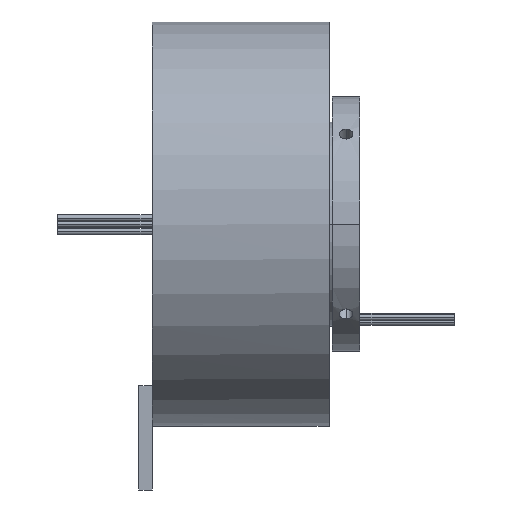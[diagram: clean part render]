
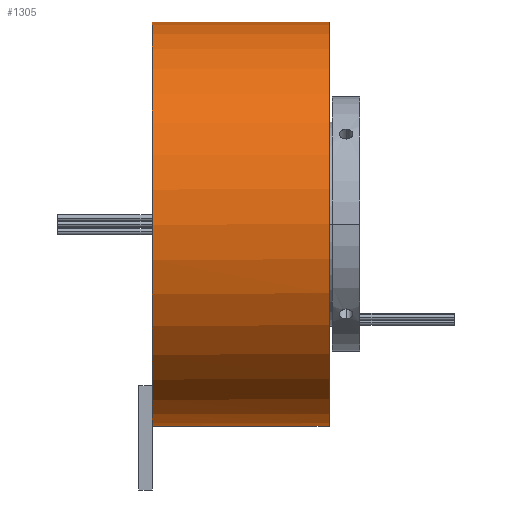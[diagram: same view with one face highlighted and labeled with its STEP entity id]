
A CAD part, left-side view. The second image highlights one B-rep face of the part: STEP entity #1305.
In plain terms, the highlighted cylindrical face has radius 59.5 mm (diameter 119 mm), a partial arc.
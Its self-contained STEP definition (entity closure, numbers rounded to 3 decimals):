
#92=CYLINDRICAL_SURFACE('',#7792,59.5);
#365=CIRCLE('',#7708,59.5);
#411=CIRCLE('',#7783,59.5);
#417=CIRCLE('',#7791,59.5);
#906=LINE('',#22940,#1719);
#907=LINE('',#22944,#1720);
#1305=ADVANCED_FACE('',(#2117),#92,.T.);
#1719=VECTOR('',#8749,1.);
#1720=VECTOR('',#8752,1.);
#2117=FACE_OUTER_BOUND('',#2568,.T.);
#2568=EDGE_LOOP('',(#4201,#4202,#4203,#4204,#4205));
#4201=ORIENTED_EDGE('',*,*,#6393,.F.);
#4202=ORIENTED_EDGE('',*,*,#6513,.T.);
#4203=ORIENTED_EDGE('',*,*,#6391,.T.);
#4204=ORIENTED_EDGE('',*,*,#6423,.F.);
#4205=ORIENTED_EDGE('',*,*,#6503,.F.);
#5418=VERTEX_POINT('',#22938);
#5420=VERTEX_POINT('',#22941);
#5421=VERTEX_POINT('',#22943);
#5422=VERTEX_POINT('',#22945);
#5449=VERTEX_POINT('',#23247);
#6391=EDGE_CURVE('',#5420,#5418,#906,.T.);
#6393=EDGE_CURVE('',#5421,#5422,#907,.T.);
#6423=EDGE_CURVE('',#5449,#5418,#365,.T.);
#6503=EDGE_CURVE('',#5422,#5449,#411,.T.);
#6513=EDGE_CURVE('',#5421,#5420,#417,.T.);
#7708=AXIS2_PLACEMENT_3D('',#23246,#8799,#8800);
#7783=AXIS2_PLACEMENT_3D('',#23414,#8983,#8984);
#7791=AXIS2_PLACEMENT_3D('',#23432,#9003,#9004);
#7792=AXIS2_PLACEMENT_3D('',#23433,#9005,#9006);
#8749=DIRECTION('',(0.,1.,0.));
#8752=DIRECTION('',(0.,1.,0.));
#8799=DIRECTION('',(0.,1.,0.));
#8800=DIRECTION('',(-0.168,0.,-0.986));
#8983=DIRECTION('',(0.,1.,0.));
#8984=DIRECTION('',(0.,0.,-1.));
#9003=DIRECTION('',(0.,1.,0.));
#9004=DIRECTION('',(0.,0.,-1.));
#9005=DIRECTION('',(0.,1.,0.));
#9006=DIRECTION('',(0.,0.,1.));
#22938=CARTESIAN_POINT('',(0.,61.,59.5));
#22940=CARTESIAN_POINT('',(0.,9.,59.5));
#22941=CARTESIAN_POINT('',(0.,9.,59.5));
#22943=CARTESIAN_POINT('',(0.,9.,-59.5));
#22944=CARTESIAN_POINT('',(0.,9.,-59.5));
#22945=CARTESIAN_POINT('',(0.,61.,-59.5));
#23246=CARTESIAN_POINT('',(0.,61.,0.));
#23247=CARTESIAN_POINT('',(-10.,61.,-58.654));
#23414=CARTESIAN_POINT('',(0.,61.,0.));
#23432=CARTESIAN_POINT('',(0.,9.,0.));
#23433=CARTESIAN_POINT('',(0.,9.,0.));
